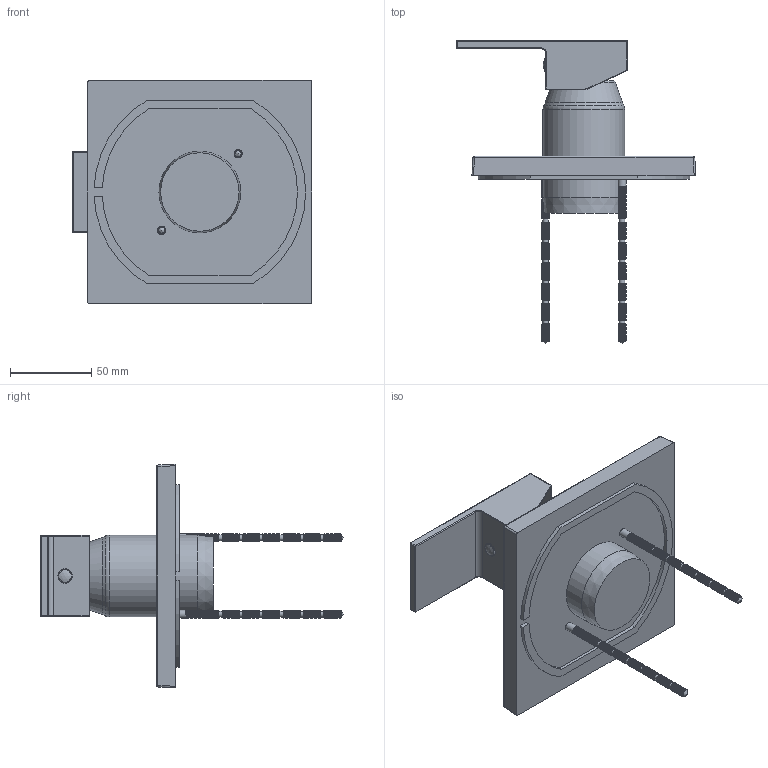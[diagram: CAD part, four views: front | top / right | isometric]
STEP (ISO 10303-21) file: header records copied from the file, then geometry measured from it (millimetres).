
FILE_DESCRIPTION(/* description */ (''),/* implementation_level */ '2;1');
FILE_NAME(/* name */ 'X:\Collections\PRO\Quadrik\QA71\TQA71 3D.stp',/* time_stamp */ '2019-08-07T09:14:21-04:00',/* author */ ('pcossett'),/* organization */ (''),/* preprocessor_version */ 'ST-DEVELOPER v16.13',/* originating_system */ 'Autodesk Inventor 2018',/* authorisation */ '');
FILE_SCHEMA (('AUTOMOTIVE_DESIGN { 1 0 10303 214 3 1 1 }'));
Products named in the file (1): TQA71
Bounding box: 147.13 x 185.95 x 137.5 mm (x, y, z)
Surface area: 81946.4 mm2 (no closed solid volume)
Topology: 0 solids, 1 shells, 472 faces, 1211 edges, 741 vertices
Faces by surface type: cylinder 190, plane 148, sphere 50, bspline 46, torus 27, cone 11
Full cylindrical faces by diameter (mm): 3.5 x12, 5 x2, 26.5 x1, 50.2 x2
Entity records: 51314 total; most frequent: CARTESIAN_POINT 40406, DIRECTION 2226, ORIENTED_EDGE 2070, EDGE_CURVE 1035, AXIS2_PLACEMENT_3D 879, VERTEX_POINT 632, EDGE_LOOP 539, FACE_OUTER_BOUND 472
